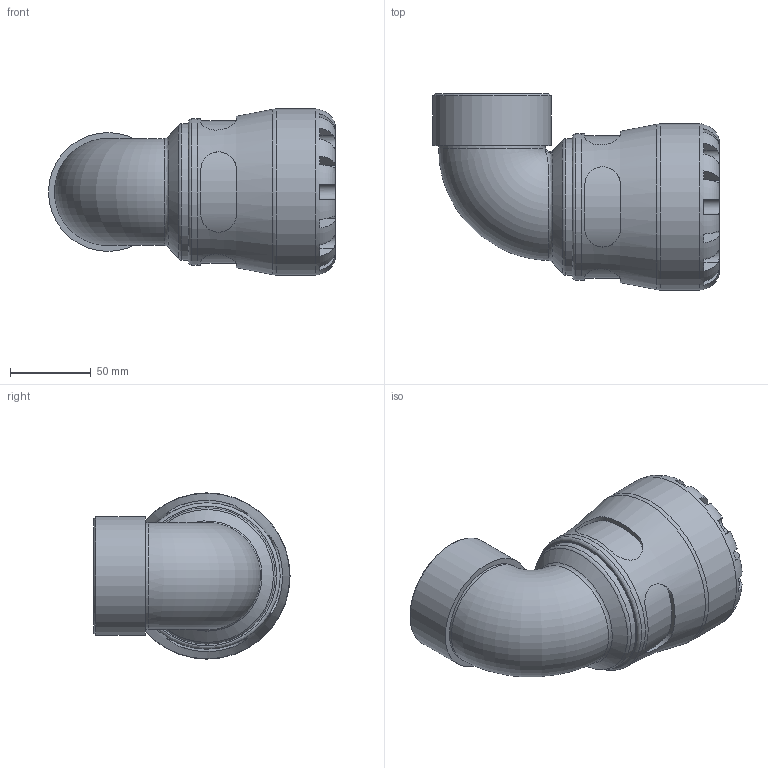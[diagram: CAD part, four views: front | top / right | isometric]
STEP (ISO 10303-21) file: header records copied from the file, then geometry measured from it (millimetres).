
FILE_DESCRIPTION(/* description */ ('PLASSON 90° ELBOW WITH THREADED FEMALE OFFTAKE 63X2" SERIES 1'),/* implementation_level */ '2;1');
FILE_NAME(/* name */ 'C:\Dropbox\KIMPROJECTS-Inventor\99-16-3568-Processing\S1\1015\101500063020_191500063020.ipt.stp',/* time_stamp */ '2017-07-30T11:52:06+03:00',/* author */ ('KIM'),/* organization */ (''),/* preprocessor_version */ 'ST-DEVELOPER v15.6',/* originating_system */ 'Autodesk Inventor 2015',/* authorisation */ '');
FILE_SCHEMA (('AUTOMOTIVE_DESIGN { 1 0 10303 214 3 1 1 }'));
Length unit declared in the file: millimetre
Products named in the file (1): 101500063020_191500063020
Bounding box: 177.83 x 121.5 x 103 mm (x, y, z)
Volume: 557622.9 mm3; surface area: 99003.4 mm2
Topology: 1 solids, 1 shells, 111 faces, 271 edges, 169 vertices
Faces by surface type: plane 62, cylinder 37, torus 7, cone 3, bspline 2
Full cylindrical faces by diameter (mm): 50.99 x2, 56.656 x1, 63 x1, 66.288 x1, 73.653 x1, 84.46 x1, 90.64 x1, 103 x1
Entity records: 4308 total; most frequent: CARTESIAN_POINT 1857, DIRECTION 494, ORIENTED_EDGE 490, EDGE_CURVE 245, AXIS2_PLACEMENT_3D 207, VERTEX_POINT 162, EDGE_LOOP 139, FACE_OUTER_BOUND 111
